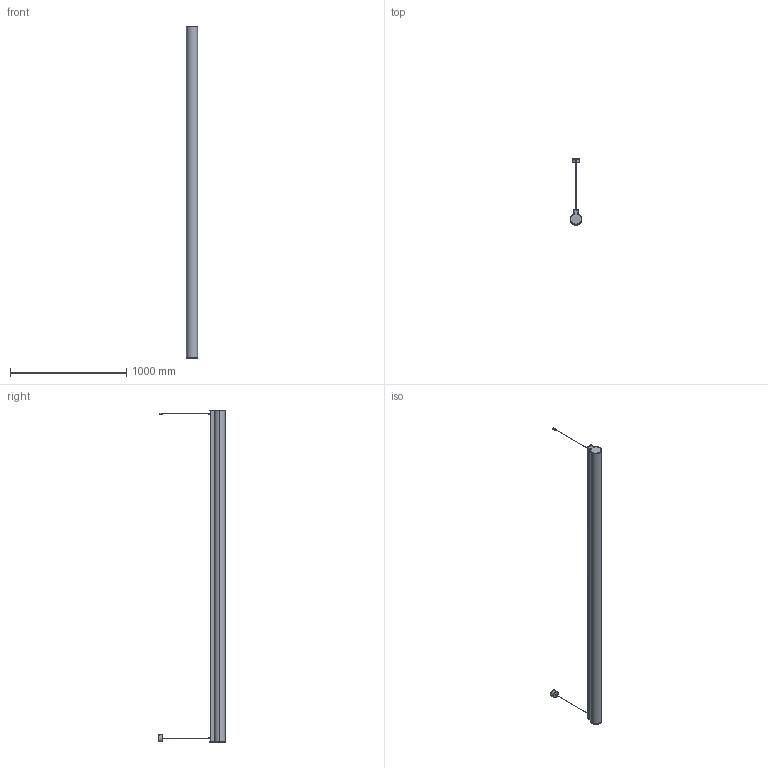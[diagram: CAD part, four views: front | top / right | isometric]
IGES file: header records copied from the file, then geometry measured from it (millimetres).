
Start section: SolidWorks IGES file using analytic representation for surfaces
Global section: file name: C:\Users\JoãoSantos\Desktop\02_3D.2D\01_2020\02_Linear\01_O975\02_Suspensa\O975_SUSP_2850.IGS; native system: SolidWorks 2020; preprocessor: SolidWorks 2020; author: JoãoSantos; date: 201021.110156; units: millimetre
Bounding box: 97.5 x 570.21 x 2850 mm (x, y, z)
Surface area: 2392973.5 mm2 (no closed solid volume)
Topology: 0 solids, 0 shells, 611 faces, 7338 edges, 7322 vertices
Faces by surface type: bspline 323, revolution 288
